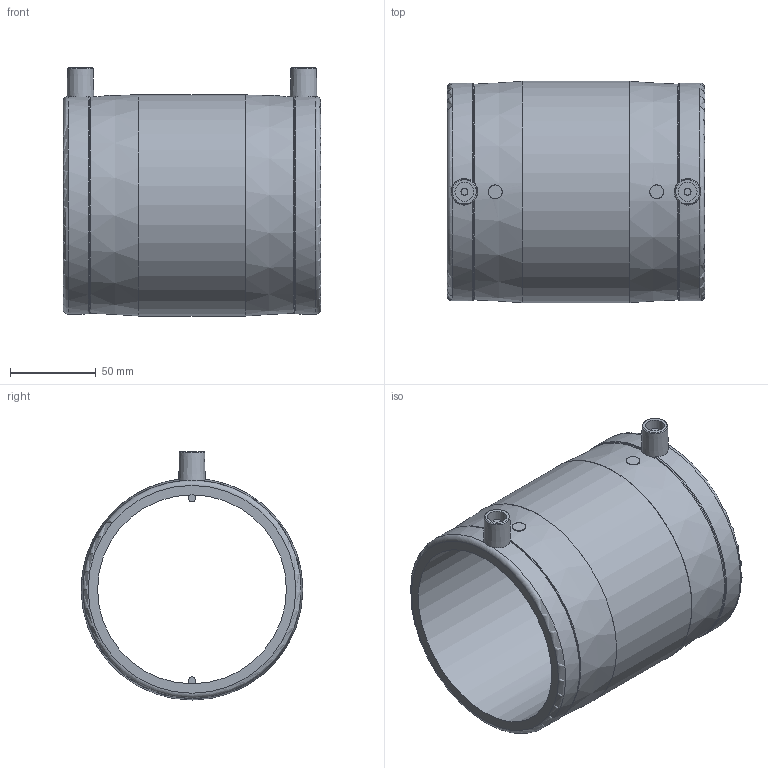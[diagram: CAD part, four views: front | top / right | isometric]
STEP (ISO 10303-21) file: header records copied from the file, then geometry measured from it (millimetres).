
FILE_DESCRIPTION(/* description */ ('Unknown'),/* implementation_level */ '2;1');
FILE_NAME(/* name */ 'MP110B',/* time_stamp */ '2021-05-06T09:05:33+02:00',/* author */ ('Unknown'),/* organization */ ('Unknown'),/* preprocessor_version */ 'ST-DEVELOPER v16.7',/* originating_system */ 'Solid Edge',/* authorisation */ 'Unknown');
FILE_SCHEMA (('AUTOMOTIVE_DESIGN {1 0 10303 214 3 1 1}'));
Length unit declared in the file: millimetre
Products named in the file (1): MP110B
Bounding box: 150 x 129 x 144.5 mm (x, y, z)
Volume: 507968.3 mm3; surface area: 120389.2 mm2
Topology: 1 solids, 1 shells, 44 faces, 102 edges, 67 vertices
Faces by surface type: plane 18, cylinder 12, torus 10, cone 4
Full cylindrical faces by diameter (mm): 4 x2, 8 x2, 11 x2, 110 x1, 129 x1
Entity records: 1150 total; most frequent: CARTESIAN_POINT 259, DIRECTION 182, ORIENTED_EDGE 144, AXIS2_PLACEMENT_3D 83, EDGE_CURVE 72, EDGE_LOOP 72, FACE_BOUND 72, VERTEX_POINT 56
